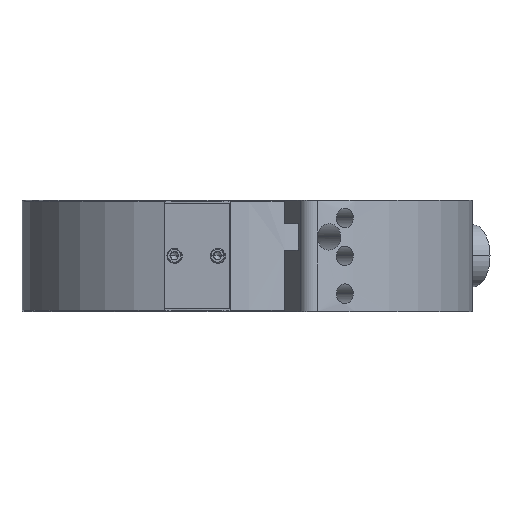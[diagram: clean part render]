
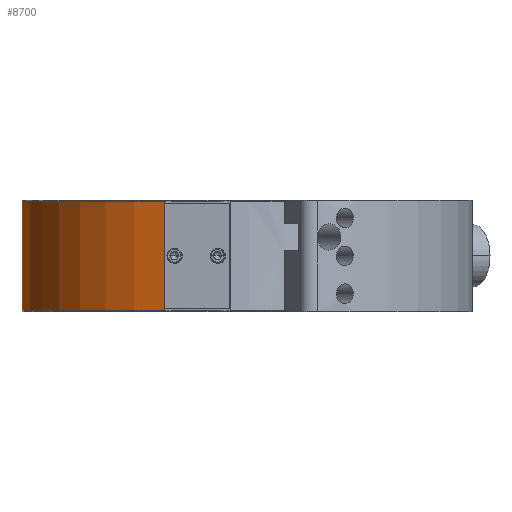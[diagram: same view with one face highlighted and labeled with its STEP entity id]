
A CAD part, left-side view. The second image highlights one B-rep face of the part: STEP entity #8700.
In plain terms, the highlighted cylindrical face has radius 47.371 mm (diameter 94.742 mm), a partial arc.
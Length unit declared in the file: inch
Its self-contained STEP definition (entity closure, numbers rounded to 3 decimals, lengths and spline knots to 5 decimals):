
#186 = VERTEX_POINT ( 'NONE', #839 ) ;
#197 = CARTESIAN_POINT ( 'NONE',  ( -1.89444, 0.86716, -0.18286 ) ) ;
#839 = CARTESIAN_POINT ( 'NONE',  ( -1.89444, 0.86716, -0.16286 ) ) ;
#1770 = EDGE_CURVE ( 'NONE', #34166, #21810, #28001, .T. ) ;
#2476 = CARTESIAN_POINT ( 'NONE',  ( -1.89444, 0.86716, 0.85714 ) ) ;
#3971 = CARTESIAN_POINT ( 'NONE',  ( 1.76654, 0.36448, -0.18286 ) ) ;
#4063 = CARTESIAN_POINT ( 'NONE',  ( -0.09846, 0.36448, -0.19286 ) ) ;
#4375 = ORIENTED_EDGE ( 'NONE', *, *, #27149, .F. ) ;
#5051 = VERTEX_POINT ( 'NONE', #11469 ) ;
#5387 = EDGE_LOOP ( 'NONE', ( #27097, #29643, #11984, #22975, #29198, #4375 ) ) ;
#5462 = CARTESIAN_POINT ( 'NONE',  ( -0.09846, 0.36448, 0.85714 ) ) ;
#6168 = DIRECTION ( 'NONE',  ( 1., 0., 0. ) ) ;
#7327 = EDGE_CURVE ( 'NONE', #21810, #186, #33679, .T. ) ;
#7923 = LINE ( 'NONE', #19614, #23121 ) ;
#8700 = ADVANCED_FACE ( 'NONE', ( #13443 ), #32811, .T. ) ;
#9033 = LINE ( 'NONE', #31077, #16627 ) ;
#9370 = VERTEX_POINT ( 'NONE', #2476 ) ;
#11137 = EDGE_CURVE ( 'NONE', #5051, #9370, #22107, .T. ) ;
#11469 = CARTESIAN_POINT ( 'NONE',  ( -1.89444, 0.86716, 0.83714 ) ) ;
#11984 = ORIENTED_EDGE ( 'NONE', *, *, #7327, .T. ) ;
#12656 = DIRECTION ( 'NONE',  ( 1., 0., 0. ) ) ;
#13443 = FACE_OUTER_BOUND ( 'NONE', #5387, .T. ) ;
#14969 = VECTOR ( 'NONE', #21725, 39.37008 ) ;
#14982 = DIRECTION ( 'NONE',  ( 0., 0., 1. ) ) ;
#16627 = VECTOR ( 'NONE', #14982, 39.37008 ) ;
#16872 = DIRECTION ( 'NONE',  ( 0., 0., 1. ) ) ;
#18045 = AXIS2_PLACEMENT_3D ( 'NONE', #24895, #16872, #6168 ) ;
#18546 = CARTESIAN_POINT ( 'NONE',  ( -1.89444, 0.86716, -0.19286 ) ) ;
#19614 = CARTESIAN_POINT ( 'NONE',  ( -1.89444, 0.86716, -0.19286 ) ) ;
#21040 = DIRECTION ( 'NONE',  ( 0., 0., 1. ) ) ;
#21480 = CARTESIAN_POINT ( 'NONE',  ( -1.89444, 0.86716, 0.86718 ) ) ;
#21725 = DIRECTION ( 'NONE',  ( 0., 0., 1. ) ) ;
#21810 = VERTEX_POINT ( 'NONE', #197 ) ;
#22107 = LINE ( 'NONE', #21480, #14969 ) ;
#22269 = AXIS2_PLACEMENT_3D ( 'NONE', #5462, #24309, #25008 ) ;
#22356 = CARTESIAN_POINT ( 'NONE',  ( 1.76654, 0.36448, 0.85714 ) ) ;
#22975 = ORIENTED_EDGE ( 'NONE', *, *, #34659, .T. ) ;
#23121 = VECTOR ( 'NONE', #27949, 39.37008 ) ;
#23155 = DIRECTION ( 'NONE',  ( 0., 0., 1. ) ) ;
#24309 = DIRECTION ( 'NONE',  ( 0., 0., 1. ) ) ;
#24895 = CARTESIAN_POINT ( 'NONE',  ( -0.09846, 0.36448, -0.18286 ) ) ;
#25008 = DIRECTION ( 'NONE',  ( -0.104, -0.995, 0. ) ) ;
#25116 = VERTEX_POINT ( 'NONE', #22356 ) ;
#26927 = CIRCLE ( 'NONE', #22269, 1.865 ) ;
#27097 = ORIENTED_EDGE ( 'NONE', *, *, #30901, .F. ) ;
#27149 = EDGE_CURVE ( 'NONE', #25116, #9370, #26927, .T. ) ;
#27949 = DIRECTION ( 'NONE',  ( 0., 0., 1. ) ) ;
#28001 = CIRCLE ( 'NONE', #18045, 1.865 ) ;
#29046 = VECTOR ( 'NONE', #21040, 39.37008 ) ;
#29198 = ORIENTED_EDGE ( 'NONE', *, *, #11137, .T. ) ;
#29643 = ORIENTED_EDGE ( 'NONE', *, *, #1770, .T. ) ;
#30187 = AXIS2_PLACEMENT_3D ( 'NONE', #4063, #23155, #12656 ) ;
#30901 = EDGE_CURVE ( 'NONE', #34166, #25116, #9033, .T. ) ;
#31077 = CARTESIAN_POINT ( 'NONE',  ( 1.76654, 0.36448, -0.19286 ) ) ;
#32811 = CYLINDRICAL_SURFACE ( 'NONE', #30187, 1.865 ) ;
#33679 = LINE ( 'NONE', #18546, #29046 ) ;
#34166 = VERTEX_POINT ( 'NONE', #3971 ) ;
#34659 = EDGE_CURVE ( 'NONE', #186, #5051, #7923, .T. ) ;
